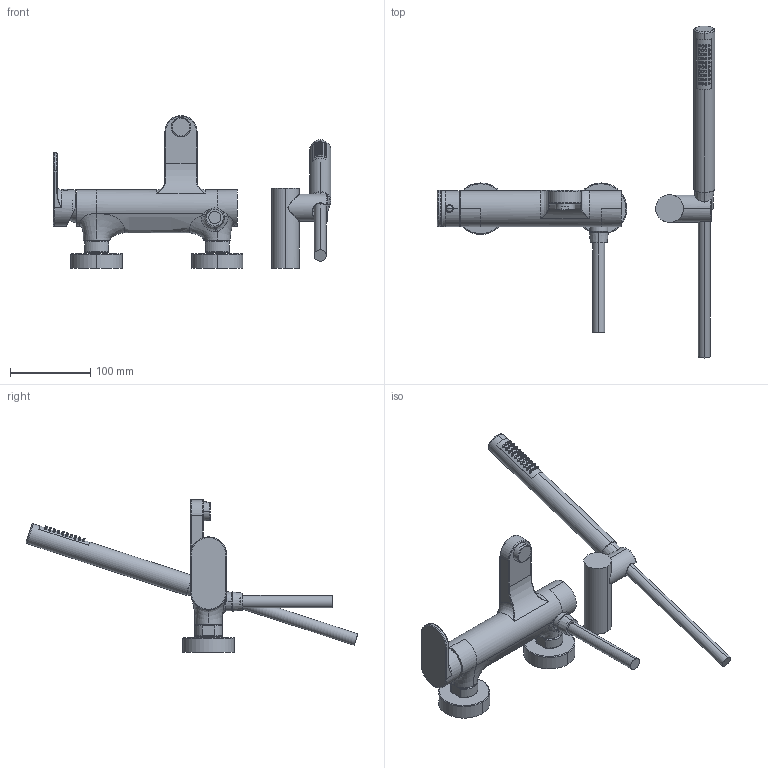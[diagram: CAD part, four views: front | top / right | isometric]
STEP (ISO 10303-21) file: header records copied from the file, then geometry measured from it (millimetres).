
FILE_DESCRIPTION((''),'2;1');
FILE_NAME('64002','2020-06-04T10:15:10',('volponeff'),(''),'CREO PARAMETRIC BY PTC INC, 2018100','CREO PARAMETRIC BY PTC INC, 2018100','');
FILE_SCHEMA(('CONFIG_CONTROL_DESIGN'));
Length unit declared in the file: millimetre
Products named in the file (1): 64002
Bounding box: 345.15 x 413 x 190.3 mm (x, y, z)
Volume: 938409.9 mm3; surface area: 143239.9 mm2
Topology: 4 solids, 10 shells, 529 faces, 1184 edges, 728 vertices
Faces by surface type: cylinder 236, plane 126, bspline 60, torus 52, cone 45, sphere 8, extrusion 2
Entity records: 31640 total; most frequent: CARTESIAN_POINT 20452, ORIENTED_EDGE 2360, DIRECTION 2171, EDGE_CURVE 1180, AXIS2_PLACEMENT_3D 862, VERTEX_POINT 728, EDGE_LOOP 594, FACE_OUTER_BOUND 529
